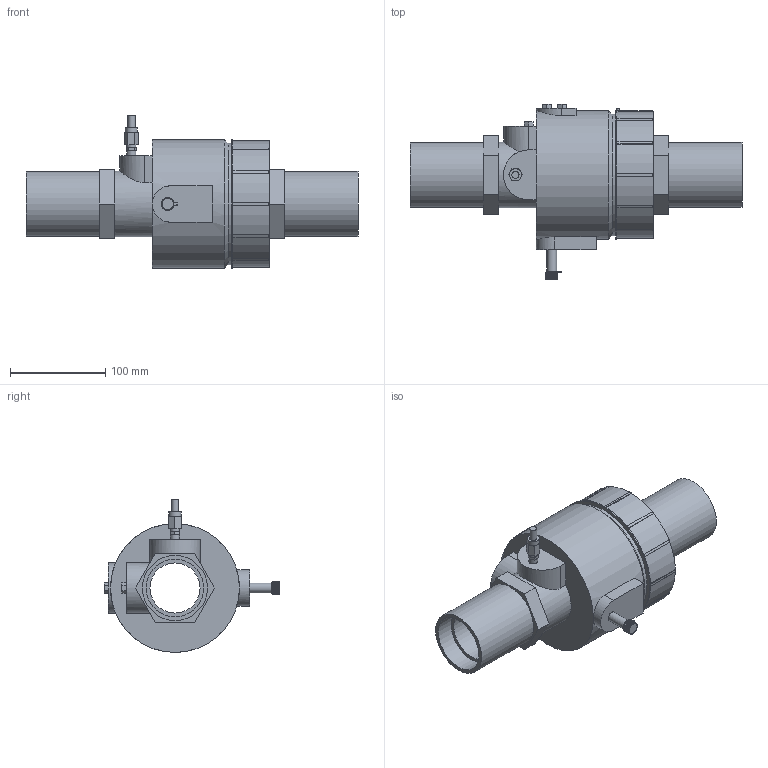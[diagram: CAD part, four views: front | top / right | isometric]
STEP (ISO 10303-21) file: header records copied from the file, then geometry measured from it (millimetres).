
FILE_DESCRIPTION(/* description */ ('VIC CONTROLLER DIFFERENTIAL PRESSURE TA SERIES 7DA (FPT)','CAx-IF Rec.Pracs.---Representation and Presentation of Product Manufacturing Information (PMI)---4.0---2014-10-13'),/* implementation_level */ '2;1');
FILE_NAME(/* name */ 'C:\Users\Vjadhav\Desktop\CAD for Inventor\1\7DA\STEP\Victaulic_IPS_Controller Differential Pressure_TA Series 7DA (FPT)\Victaulic_IPS_Controller Differential Pressure_TA Series 7DA (FPT)_2 (50).stp',/* time_stamp */ '2021-08-30T15:53:31+05:00',/* author */ ('Vjadhav'),/* organization */ ('Victaulic'),/* preprocessor_version */ 'ST-DEVELOPER v17.2',/* originating_system */ 'Autodesk Inventor 2019',/* authorisation */ '');
FILE_SCHEMA (('AP242_MANAGED_MODEL_BASED_3D_ENGINEERING_MIM_LF { 1 0 10303 442 1 1 4 }'));
Length unit declared in the file: inch
Products named in the file (1): 7DA-02.0
Bounding box: 347.98 x 184.28 x 160.26 mm (x, y, z)
Volume: 1822299.5 mm3; surface area: 217838.9 mm2
Topology: 1 solids, 1 shells, 371 faces, 1038 edges, 691 vertices
Faces by surface type: plane 201, cylinder 122, torus 35, cone 13
Full cylindrical faces by diameter (mm): 2.54 x1, 7.62 x1, 9.525 x2, 10.16 x2, 12.7 x1, 52.502 x1, 60.325 x2, 68.148 x2, 68.95 x2, 83.185 x1, 85.725 x1, 127.412 x1, 130.048 x1, 135.032 x1
Entity records: 13139 total; most frequent: CARTESIAN_POINT 2926, ORIENTED_EDGE 2076, DIRECTION 2041, EDGE_CURVE 1038, AXIS2_PLACEMENT_3D 718, VERTEX_POINT 691, LINE 605, VECTOR 605
